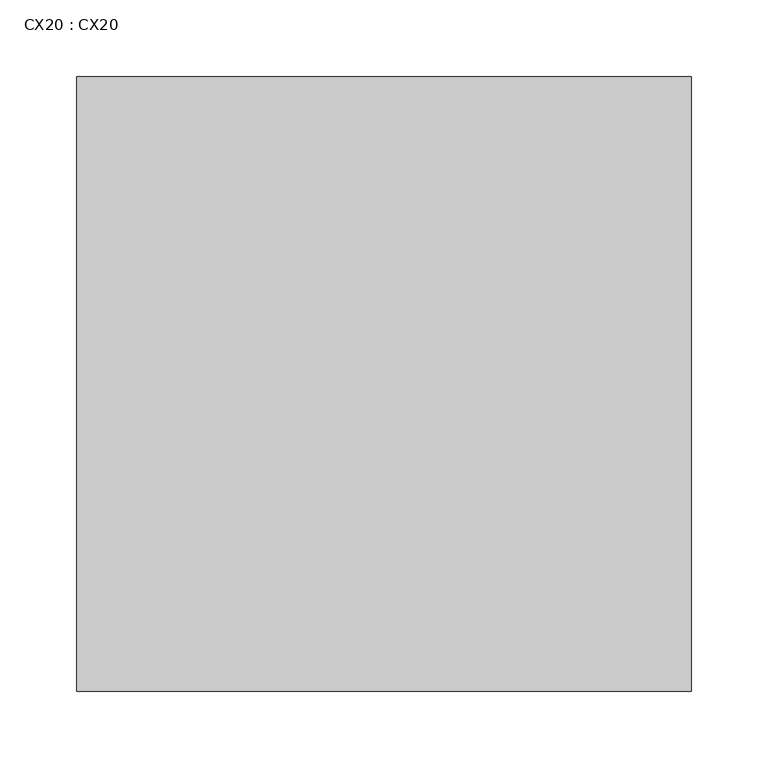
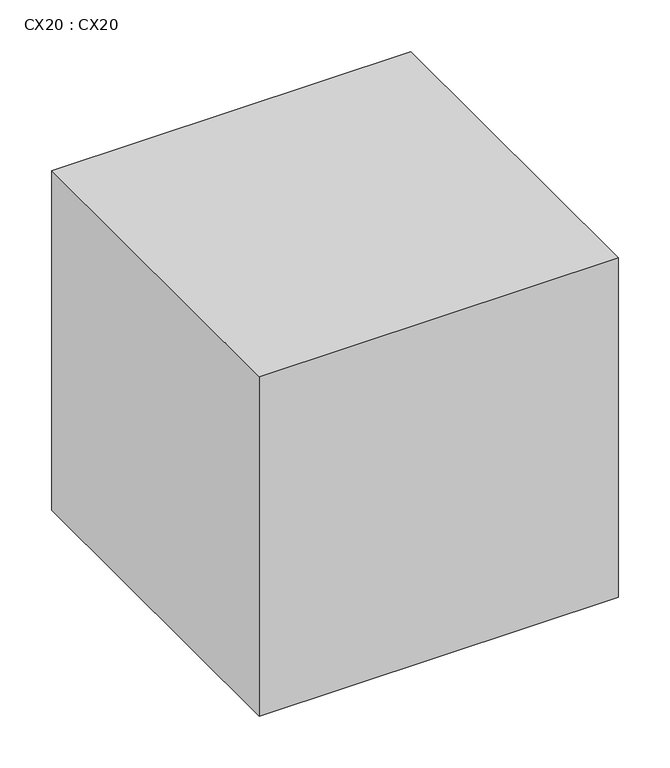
"""IFC4 building model written with IfcOpenShell, lengths in millimetres: proxy geometry, CX20 : CX20."""

from ifc_helpers import new_model, si_unit, frame, origin, place, context, project, spatial, polyline, outline, extrude, source, transform, mapped, element, save


def cx20_cx20_b319911f(model_context):
    return source(origin(), model_context, "Body", "SweptSolid", [
        extrude(outline(polyline([(6424.07, 22761.1), (6424.07, 22361.1), (6024.07, 22361.1), (6024.07, 22761.1), (6424.07, 22761.1)])), frame((0.0, 0.0, -370.0), z_axis=(0.0, 0.0, 1.0), x_axis=(1.0, 0.0, 0.0)), (0.0, 0.0, 1.0), 400.0),
    ])


if __name__ == "__main__":
    model = new_model("IFC4")
    model_context = context("Model", 3, world=origin())
    ifc_project = project(units=[si_unit("LENGTHUNIT", "METRE", prefix="MILLI")], contexts=[model_context])
    site = spatial("IfcSite", under=ifc_project)
    building = spatial("IfcBuilding", under=site)
    placement = place(None, origin())
    cx20_cx20_shape = cx20_cx20_b319911f(model_context)
    element("IfcBuildingElementProxy", 1, Name="CX20 : CX20", ObjectType="CX20 : CX20", at=placement, inside=building, context=model_context, shape_type="MappedRepresentation", body=[
        mapped(cx20_cx20_shape, transform((0.0, 0.0, 0.0), x_axis=(1.0, 0.0, 0.0), y_axis=(0.0, 1.0, 0.0), z_axis=(0.0, 0.0, 1.0))),
    ])
    save(model, "model.ifc")
